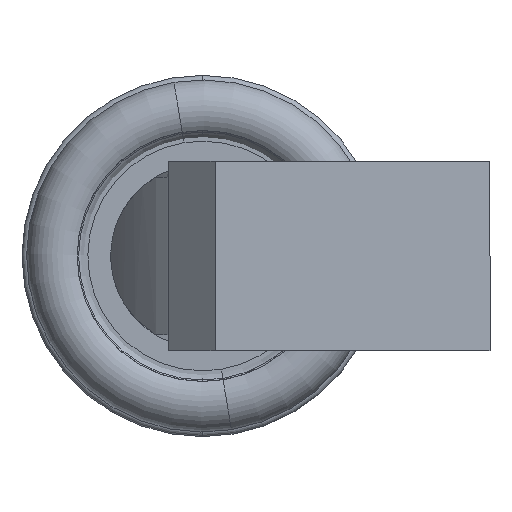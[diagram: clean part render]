
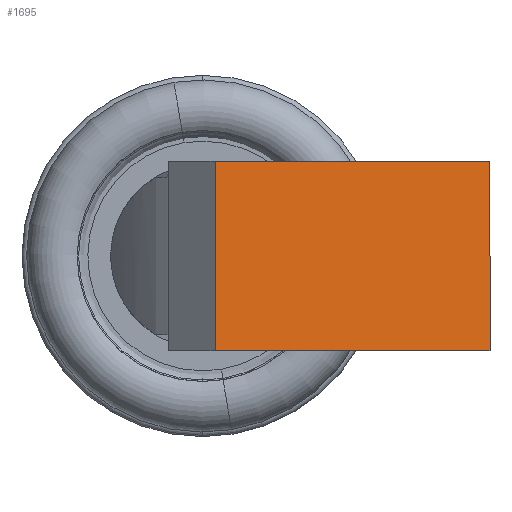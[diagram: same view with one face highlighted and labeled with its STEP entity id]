
A CAD part, left-side view. The second image highlights one B-rep face of the part: STEP entity #1695.
In plain terms, the highlighted planar face has unit normal (-0.998, -0.07, 0).
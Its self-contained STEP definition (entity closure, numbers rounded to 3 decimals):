
#184 = LINE ( 'NONE', #1080, #905 ) ;
#196 = DIRECTION ( 'NONE',  ( -0.07, 0.998, 0. ) ) ;
#250 = CARTESIAN_POINT ( 'NONE',  ( -124.5, -0.406, -3.1 ) ) ;
#258 = AXIS2_PLACEMENT_3D ( 'NONE', #425, #2006, #645 ) ;
#272 = ORIENTED_EDGE ( 'NONE', *, *, #2684, .T. ) ;
#316 = VERTEX_POINT ( 'NONE', #2805 ) ;
#422 = FACE_OUTER_BOUND ( 'NONE', #1102, .T. ) ;
#425 = CARTESIAN_POINT ( 'NONE',  ( -123.922, -8.666, -12.5 ) ) ;
#550 = ORIENTED_EDGE ( 'NONE', *, *, #2843, .F. ) ;
#583 = ORIENTED_EDGE ( 'NONE', *, *, #952, .F. ) ;
#645 = DIRECTION ( 'NONE',  ( -0.07, 0.998, 0. ) ) ;
#666 = LINE ( 'NONE', #893, #2612 ) ;
#706 = CARTESIAN_POINT ( 'NONE',  ( -124.5, -0.406, 3.1 ) ) ;
#885 = CARTESIAN_POINT ( 'NONE',  ( -123.922, -8.666, -3.1 ) ) ;
#893 = CARTESIAN_POINT ( 'NONE',  ( -124.5, -0.406, -12.5 ) ) ;
#905 = VECTOR ( 'NONE', #196, 1000. ) ;
#952 = EDGE_CURVE ( 'NONE', #1105, #2459, #666, .T. ) ;
#1080 = CARTESIAN_POINT ( 'NONE',  ( -123.922, -8.666, 3.1 ) ) ;
#1102 = EDGE_LOOP ( 'NONE', ( #550, #1674, #272, #583 ) ) ;
#1105 = VERTEX_POINT ( 'NONE', #250 ) ;
#1433 = DIRECTION ( 'NONE',  ( 0., 0., 1. ) ) ;
#1477 = LINE ( 'NONE', #1652, #1872 ) ;
#1551 = CARTESIAN_POINT ( 'NONE',  ( -123.872, -9.384, 3.1 ) ) ;
#1652 = CARTESIAN_POINT ( 'NONE',  ( -123.872, -9.384, -12.5 ) ) ;
#1670 = VERTEX_POINT ( 'NONE', #1551 ) ;
#1674 = ORIENTED_EDGE ( 'NONE', *, *, #2494, .T. ) ;
#1695 = ADVANCED_FACE ( 'NONE', ( #422 ), #1771, .F. ) ;
#1771 = PLANE ( 'NONE',  #258 ) ;
#1872 = VECTOR ( 'NONE', #1433, 1000. ) ;
#2006 = DIRECTION ( 'NONE',  ( 0.998, 0.07, 0. ) ) ;
#2459 = VERTEX_POINT ( 'NONE', #706 ) ;
#2494 = EDGE_CURVE ( 'NONE', #316, #1670, #1477, .T. ) ;
#2612 = VECTOR ( 'NONE', #2927, 1000. ) ;
#2684 = EDGE_CURVE ( 'NONE', #1670, #2459, #184, .T. ) ;
#2696 = VECTOR ( 'NONE', #2718, 1000. ) ;
#2718 = DIRECTION ( 'NONE',  ( -0.07, 0.998, 0. ) ) ;
#2805 = CARTESIAN_POINT ( 'NONE',  ( -123.872, -9.384, -3.1 ) ) ;
#2843 = EDGE_CURVE ( 'NONE', #316, #1105, #2912, .T. ) ;
#2912 = LINE ( 'NONE', #885, #2696 ) ;
#2927 = DIRECTION ( 'NONE',  ( 0., 0., 1. ) ) ;
